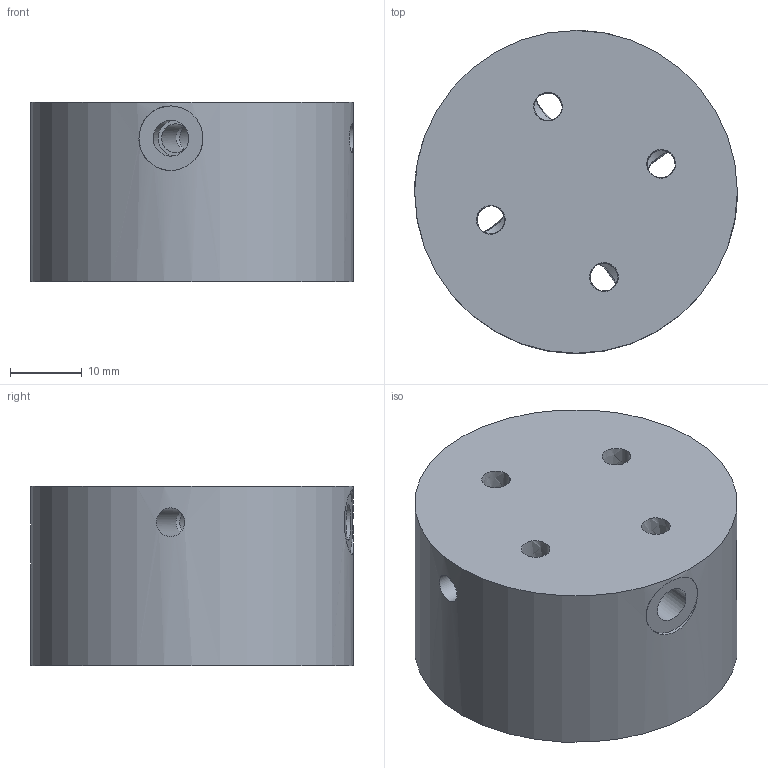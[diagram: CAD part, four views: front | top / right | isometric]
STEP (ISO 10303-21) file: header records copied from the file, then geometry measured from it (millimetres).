
FILE_DESCRIPTION((''),'2;1');
FILE_NAME('C:\Documents and Settings\mika1\Mes documents\pulverisation\MarcheLully\NewBuse\Distributeur4x.stp','2016-07-28T21:24:51',('mika1'),(''),'Autodesk Inventor 2008','Autodesk Inventor 2008','');
FILE_SCHEMA(('AUTOMOTIVE_DESIGN { 1 0 10303 214 1 1 1 1 }'));
Length unit declared in the file: millimetre
Products named in the file (1): Distributeur4x
Bounding box: 45 x 45 x 25 mm (x, y, z)
Surface area: 10682.5 mm2 (no closed solid volume)
Topology: 0 solids, 1 shells, 40 faces, 128 edges, 81 vertices
Faces by surface type: bspline 29, cylinder 7, plane 4
Full cylindrical faces by diameter (mm): 4 x4, 5 x1, 9 x1, 45 x1
Entity records: 1975 total; most frequent: CARTESIAN_POINT 1229, ORIENTED_EDGE 130, DIRECTION 122, EDGE_LOOP 83, EDGE_CURVE 65, AXIS2_PLACEMENT_3D 57, VERTEX_POINT 50, FACE_BOUND 45
